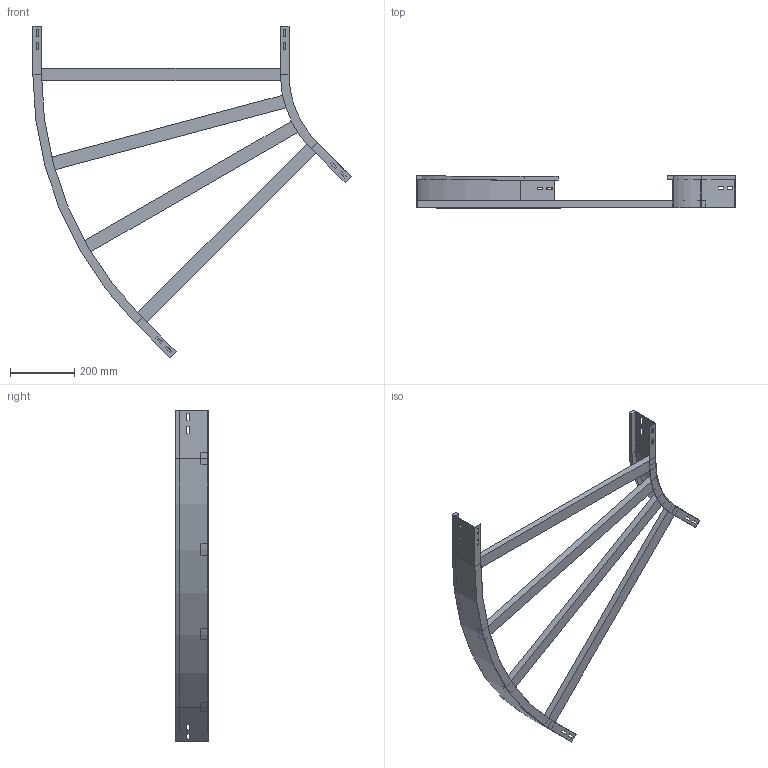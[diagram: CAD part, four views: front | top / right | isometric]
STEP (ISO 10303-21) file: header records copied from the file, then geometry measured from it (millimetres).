
FILE_DESCRIPTION (( 'STEP AP214' ), '1' );
FILE_NAME ('A2_11B3D800.step', '2025-02-21T15:12:39', ( '' ), ( '' ), 'SwSTEP 2.0', 'SolidWorks 2023', '' );
FILE_SCHEMA (( 'AUTOMOTIVE_DESIGN' ));
Length unit declared in the file: millimetre
Products named in the file (4): A2_LONGH.INTERNO 45°_H100_R300; A2_LONGH.ESTERNO 45°_H100_R300+800; A2_11B3D800; TRAVERSINO_800
Assembly tree (6 placements, depth 2):
  A2_11B3D800
    A2_LONGH.INTERNO 45°_H100_R300
    A2_LONGH.ESTERNO 45°_H100_R300+800
    TRAVERSINO_800  x4
Bounding box: 993.93 x 100 x 1033.88 mm (x, y, z)
Volume: 3325316.4 mm3; surface area: 876513.4 mm2
Topology: 6 solids, 6 shells, 140 faces, 352 edges, 224 vertices
Faces by surface type: plane 132, cylinder 8
Entity records: 3829 total; most frequent: CARTESIAN_POINT 647, ORIENTED_EDGE 632, DIRECTION 594, EDGE_CURVE 316, LINE 300, VECTOR 300, VERTEX_POINT 200, EDGE_LOOP 154
